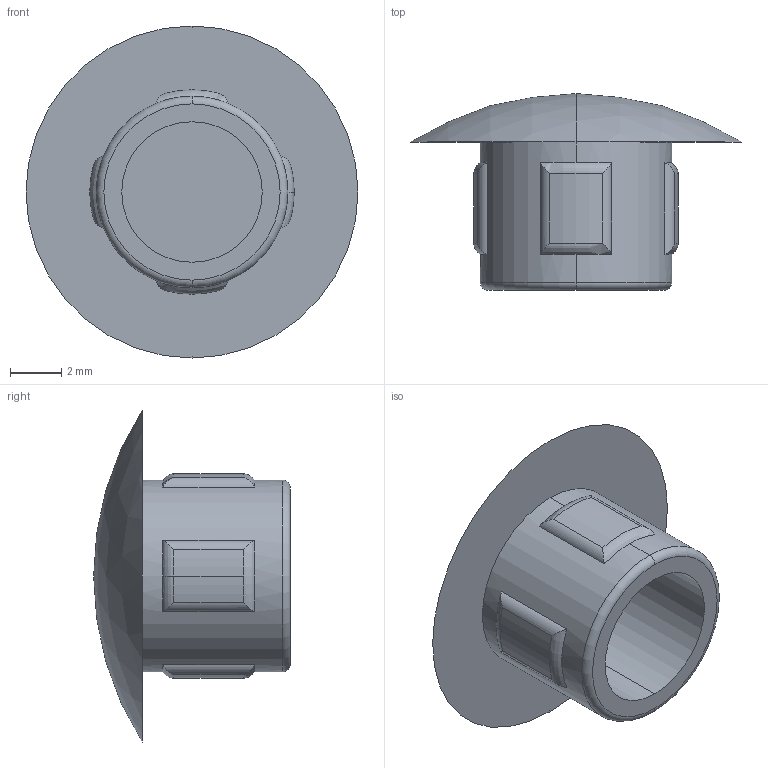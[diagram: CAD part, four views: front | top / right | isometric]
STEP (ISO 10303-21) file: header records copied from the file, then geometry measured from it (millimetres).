
FILE_DESCRIPTION (( 'STEP AP203' ), '1' );
FILE_NAME ('10036_ABDBOH75.STEP', '2018-10-01T08:32:11', ( '' ), ( '' ), 'SwSTEP 2.0', 'SolidWorks 2017', '' );
FILE_SCHEMA (( 'CONFIG_CONTROL_DESIGN' ));
Length unit declared in the file: millimetre
Products named in the file (1): 10036_ABDBOH75
Bounding box: 13 x 7.7 x 13 mm (x, y, z)
Volume: 251.9 mm3; surface area: 520.7 mm2
Topology: 1 solids, 1 shells, 34 faces, 82 edges, 54 vertices
Faces by surface type: cylinder 17, torus 12, plane 3, sphere 2
Entity records: 1138 total; most frequent: CARTESIAN_POINT 251, DIRECTION 179, ORIENTED_EDGE 164, EDGE_CURVE 82, AXIS2_PLACEMENT_3D 78, VERTEX_POINT 54, CIRCLE 43, EDGE_LOOP 38
